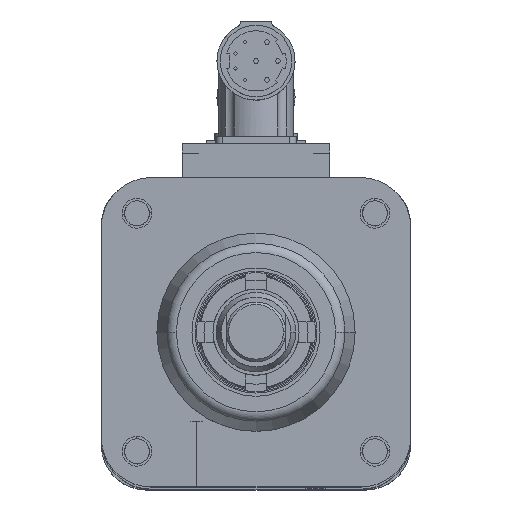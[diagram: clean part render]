
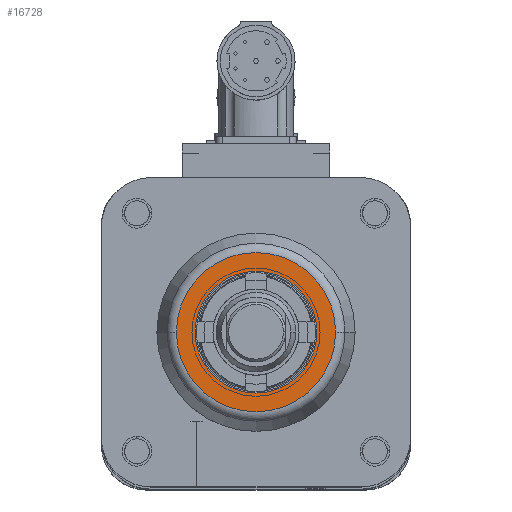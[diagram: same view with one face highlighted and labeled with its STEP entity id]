
A CAD part, top view. The second image highlights one B-rep face of the part: STEP entity #16728.
In plain terms, the highlighted planar face has unit normal (0, 0, 1).
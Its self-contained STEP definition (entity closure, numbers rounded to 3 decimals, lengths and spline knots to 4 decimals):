
#8305 = EDGE_CURVE ( 'NONE', #8309, #12265, #10404, .T. ) ;
#8309 = VERTEX_POINT ( 'NONE', #10392 ) ;
#8741 = VERTEX_POINT ( 'NONE', #10456 ) ;
#9822 = EDGE_CURVE ( 'NONE', #8741, #9823, #10887, .T. ) ;
#9823 = VERTEX_POINT ( 'NONE', #10883 ) ;
#10392 = CARTESIAN_POINT ( 'NONE',  ( -0.7675, 0., 1.26 ) ) ;
#10400 = DIRECTION ( 'NONE',  ( 1., 0., 0. ) ) ;
#10401 = DIRECTION ( 'NONE',  ( 0., 0., 1. ) ) ;
#10402 = CARTESIAN_POINT ( 'NONE',  ( 0., 0., 1.26 ) ) ;
#10403 = AXIS2_PLACEMENT_3D ( 'NONE', #10402, #10401, #10400 ) ;
#10404 = CIRCLE ( 'NONE', #10403, 0.7675 ) ;
#10456 = CARTESIAN_POINT ( 'NONE',  ( 1.0036, 0., 1.26 ) ) ;
#10883 = CARTESIAN_POINT ( 'NONE',  ( -1.0036, 0., 1.26 ) ) ;
#10884 = DIRECTION ( 'NONE',  ( 1., 0., 0. ) ) ;
#10885 = DIRECTION ( 'NONE',  ( 0., 0., 1. ) ) ;
#10886 = AXIS2_PLACEMENT_3D ( 'NONE', #10908, #10885, #10884 ) ;
#10887 = CIRCLE ( 'NONE', #10886, 1.0036 ) ;
#10908 = CARTESIAN_POINT ( 'NONE',  ( 0., 0., 1.26 ) ) ;
#12265 = VERTEX_POINT ( 'NONE', #13132 ) ;
#13132 = CARTESIAN_POINT ( 'NONE',  ( 0.7675, 0., 1.26 ) ) ;
#14581 = DIRECTION ( 'NONE',  ( 1., 0., 0. ) ) ;
#14582 = DIRECTION ( 'NONE',  ( 0., 0., 1. ) ) ;
#14583 = CARTESIAN_POINT ( 'NONE',  ( 0., 0., 1.26 ) ) ;
#14584 = AXIS2_PLACEMENT_3D ( 'NONE', #14583, #14582, #14581 ) ;
#14585 = CIRCLE ( 'NONE', #14584, 0.7675 ) ;
#14586 = DIRECTION ( 'NONE',  ( 1., 0., 0. ) ) ;
#14587 = DIRECTION ( 'NONE',  ( 0., 0., 1. ) ) ;
#14588 = CARTESIAN_POINT ( 'NONE',  ( 0., 0., 1.26 ) ) ;
#14589 = AXIS2_PLACEMENT_3D ( 'NONE', #14588, #14587, #14586 ) ;
#14590 = PLANE ( 'NONE',  #14589 ) ;
#14591 = FACE_OUTER_BOUND ( 'NONE', #16733, .T. ) ;
#14592 = FACE_BOUND ( 'NONE', #16729, .T. ) ;
#14923 = DIRECTION ( 'NONE',  ( 1., 0., 0. ) ) ;
#14924 = DIRECTION ( 'NONE',  ( 0., 0., 1. ) ) ;
#14925 = CARTESIAN_POINT ( 'NONE',  ( 0., 0., 1.26 ) ) ;
#14926 = AXIS2_PLACEMENT_3D ( 'NONE', #14925, #14924, #14923 ) ;
#14927 = CIRCLE ( 'NONE', #14926, 1.0036 ) ;
#16728 = ADVANCED_FACE ( 'NONE', ( #14592, #14591 ), #14590, .T. ) ;
#16729 = EDGE_LOOP ( 'NONE', ( #16730, #16732 ) ) ;
#16730 = ORIENTED_EDGE ( 'NONE', *, *, #16739, .F. ) ;
#16731 = ORIENTED_EDGE ( 'NONE', *, *, #9822, .T. ) ;
#16732 = ORIENTED_EDGE ( 'NONE', *, *, #8305, .F. ) ;
#16733 = EDGE_LOOP ( 'NONE', ( #16731, #18958 ) ) ;
#16739 = EDGE_CURVE ( 'NONE', #12265, #8309, #14585, .T. ) ;
#18954 = EDGE_CURVE ( 'NONE', #9823, #8741, #14927, .T. ) ;
#18958 = ORIENTED_EDGE ( 'NONE', *, *, #18954, .T. ) ;
